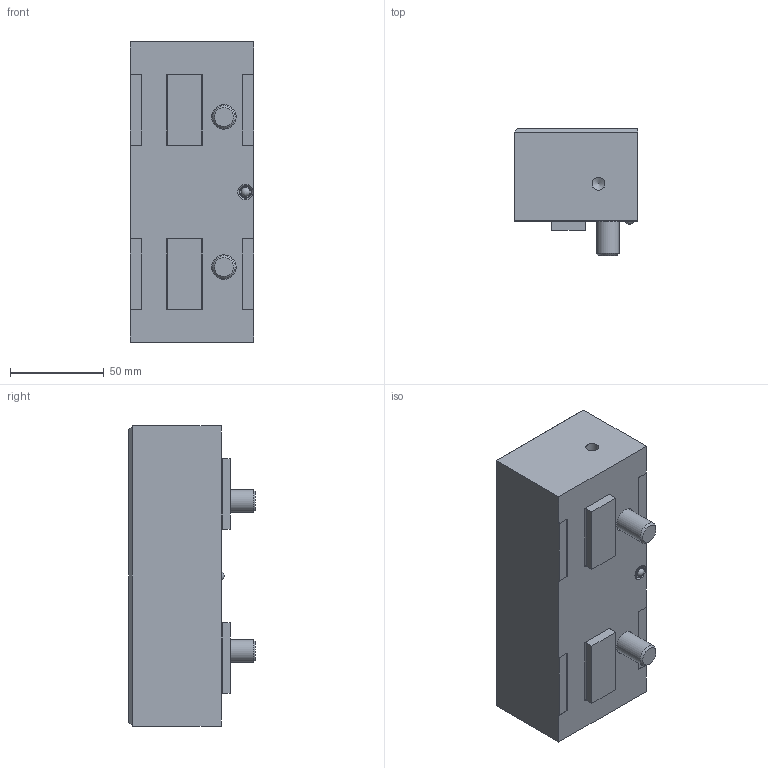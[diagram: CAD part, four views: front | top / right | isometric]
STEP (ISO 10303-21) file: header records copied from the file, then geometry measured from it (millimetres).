
FILE_DESCRIPTION (( 'STEP AP214' ), '1' );
FILE_NAME ('6921204005031.STEP', '2018-08-02T09:47:59', ( '' ), ( '' ), 'SwSTEP 2.0', 'SolidWorks 2016', '' );
FILE_SCHEMA (( 'AUTOMOTIVE_DESIGN' ));
Length unit declared in the file: millimetre
Products named in the file (3): 8006101255050_<standard>; 6921204005031; 6921204005000
Assembly tree (3 placements, depth 2):
  6921204005031
    6921204005000
    8006101255050_<standard>  x2
Bounding box: 66 x 67.5 x 160 mm (x, y, z)
Volume: 524696.2 mm3; surface area: 56648.4 mm2
Topology: 4 solids, 4 shells, 103 faces, 239 edges, 151 vertices
Faces by surface type: plane 69, cylinder 17, cone 9, torus 7, sphere 1
Full cylindrical faces by diameter (mm): 6 x2, 6.8 x2, 8.5 x1, 12 x2, 13 x2, 18 x2, 19 x2
Entity records: 2326 total; most frequent: DIRECTION 383, CARTESIAN_POINT 367, ORIENTED_EDGE 326, EDGE_CURVE 163, AXIS2_PLACEMENT_3D 132, VECTOR 119, LINE 119, VERTEX_POINT 116
